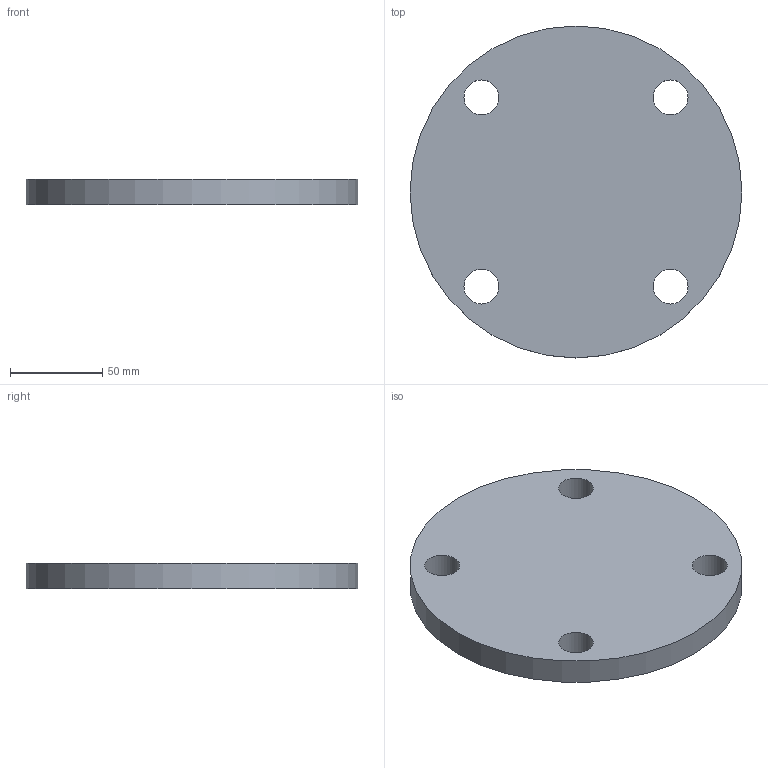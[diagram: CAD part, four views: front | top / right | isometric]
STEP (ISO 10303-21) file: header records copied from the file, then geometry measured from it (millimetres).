
FILE_DESCRIPTION(/* description */ (''),/* implementation_level */ '2;1');
FILE_NAME(/* name */ 'C:\Users\D\Documents\Inventor\HP\JIS\フランジ\JIS 5k bl ff\jis5k-bl-ff-80.stp',/* time_stamp */ '2024-09-12T16:49:41+09:00',/* author */ ('D'),/* organization */ (''),/* preprocessor_version */ 'ST-DEVELOPER v18',/* originating_system */ 'Autodesk Inventor 2020',/* authorisation */ '');
FILE_SCHEMA (('AUTOMOTIVE_DESIGN { 1 0 10303 214 3 1 1 }'));
Length unit declared in the file: millimetre
Products named in the file (1): jis5k-sop-rf-10
Bounding box: 180 x 180 x 14 mm (x, y, z)
Volume: 340379 mm3; surface area: 59885 mm2
Topology: 1 solids, 1 shells, 7 faces, 21 edges, 16 vertices
Faces by surface type: cylinder 5, plane 2
Full cylindrical faces by diameter (mm): 19 x4, 180 x1
Entity records: 316 total; most frequent: DIRECTION 53, CARTESIAN_POINT 45, ORIENTED_EDGE 42, AXIS2_PLACEMENT_3D 24, EDGE_CURVE 21, CIRCLE 16, VERTEX_POINT 16, EDGE_LOOP 15
